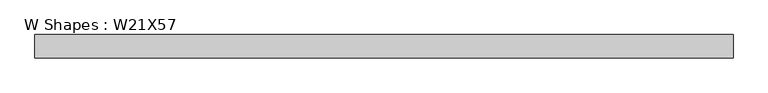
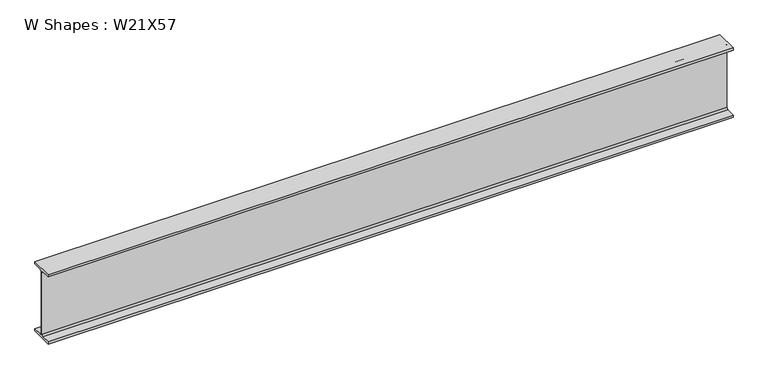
"""IFC4 building model written with IfcOpenShell, lengths in millimetres: beam geometry, W Shapes : W21X57."""

from ifc_helpers import new_model, si_unit, point, frame, frame_2d, origin, place, context, project, spatial, polyline, circle_curve, trimmed, segment, composite_curve, outline, extrude, source, transform, mapped, element, save


def w_shapes_w21x57_72440131(model_context):
    return source(origin(), model_context, "Body", "SweptSolid", [
        extrude(outline(composite_curve([segment(polyline([(83.312, -251.46), (83.312, -267.97), (-83.312, -267.97), (-83.312, -251.46), (-17.907, -251.46)]), True, "CONTINUOUS"), segment(trimmed(circle_curve(frame_2d((-17.907, -238.76)), 12.7), [point((-17.907, -251.46))], [point((-5.207, -238.76))], True, "CARTESIAN"), True, "CONTINUOUS"), segment(polyline([(-5.207, -238.76), (-5.207, 238.76)]), True, "CONTINUOUS"), segment(trimmed(circle_curve(frame_2d((-17.907, 238.76)), 12.7), [point((-5.207, 238.76))], [point((-17.907, 251.46))], True, "CARTESIAN"), True, "CONTINUOUS"), segment(polyline([(-17.907, 251.46), (-83.312, 251.46), (-83.312, 267.97), (83.312, 267.97), (83.312, 251.46), (17.907, 251.46)]), True, "CONTINUOUS"), segment(trimmed(circle_curve(frame_2d((17.907, 238.76)), 12.7), [point((17.907, 251.46))], [point((5.207, 238.76))], True, "CARTESIAN"), True, "CONTINUOUS"), segment(polyline([(5.207, 238.76), (5.207, -238.76)]), True, "CONTINUOUS"), segment(trimmed(circle_curve(frame_2d((17.907, -238.76)), 12.7), [point((5.207, -238.76))], [point((17.907, -251.46))], True, "CARTESIAN"), True, "CONTINUOUS"), segment(polyline([(17.907, -251.46), (83.312, -251.46)]), True, "CONTINUOUS")], self_intersect=False)), frame((-2546.799694, 0.0, 0.0), z_axis=(1.0, 0.0, 0.0), x_axis=(0.0, 1.0, 0.0)), (0.0, 0.0, 1.0), 5018.7533294),
    ])


if __name__ == "__main__":
    model = new_model("IFC4")
    model_context = context("Model", 3, world=origin())
    ifc_project = project(units=[si_unit("LENGTHUNIT", "METRE", prefix="MILLI")], contexts=[model_context])
    site = spatial("IfcSite", under=ifc_project)
    building = spatial("IfcBuilding", under=site)
    placement = place(None, origin())
    w_shapes_w21x57_shape = w_shapes_w21x57_72440131(model_context)
    element("IfcBeam", 1, ObjectType="W Shapes : W21X57", at=placement, inside=building, context=model_context, shape_type="MappedRepresentation", body=[
        mapped(w_shapes_w21x57_shape, transform((0.0, 0.0, 0.0), x_axis=(1.0, 0.0, 0.0), y_axis=(0.0, 1.0, 0.0), z_axis=(0.0, 0.0, 1.0))),
    ])
    save(model, "model.ifc")
